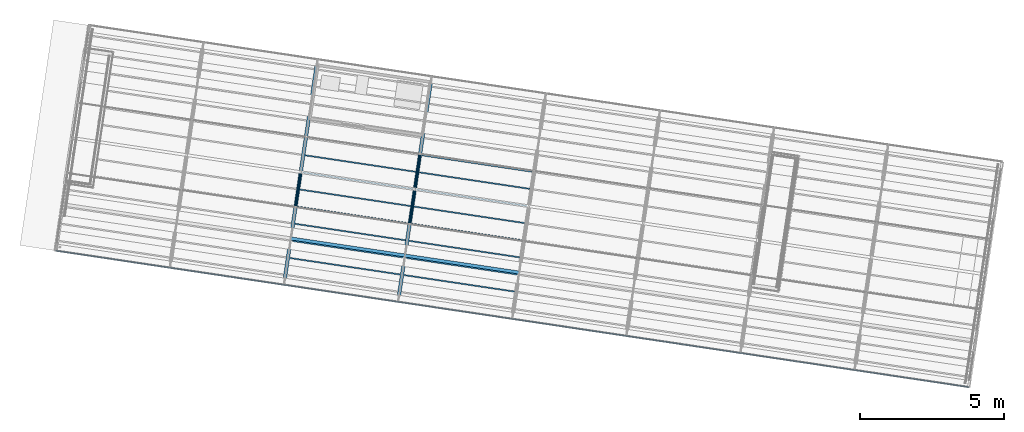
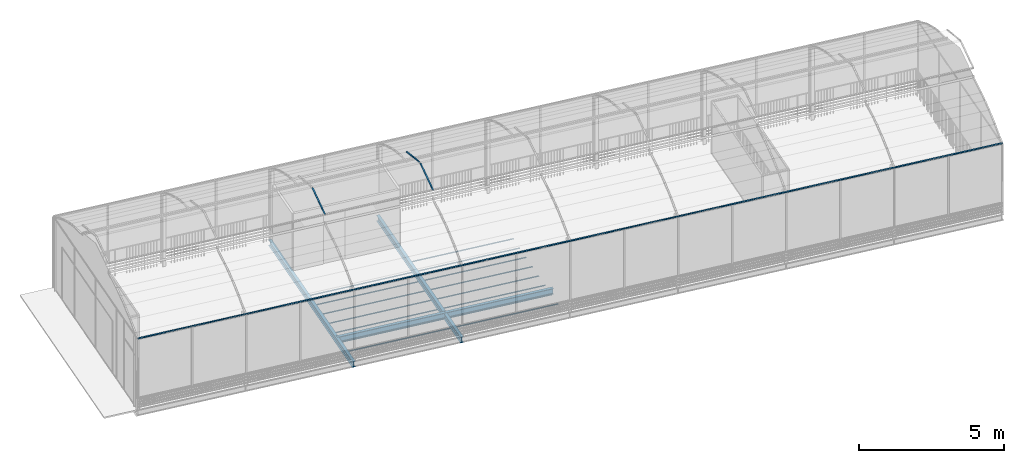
# One storey, part 6 of 34: 19 beams, 4 members, 1 element without a shape of its own.
"""IFC4 building model written with IfcOpenShell, lengths in metres."""

import ifcopenshell
import ifcopenshell.guid

model = None  # the IFC model being written
_history = None  # IfcOwnerHistory: only IFC2X3 demands one
_inside = {}  # id of a spatial element -> (the spatial element, [elements in it])
_under = {}  # id of a project, library or spatial element -> (it, [spatial elements below it])
_declared = {}  # id of a project -> (the project, [libraries it declares])
_typed = {}  # id of a type object -> (the type object, [elements of that type])
_made_of = {}  # id of a material, layer set ... -> (it, [elements and type objects made of it])


def new_model(schema):
    """Start an empty IFC model of exactly this schema.

    Asked for "IFC4X3", IfcOpenShell would pick the latest addendum, in which some entities
    have other attributes; the version numbers below select the first issue.
    IFC2X3 requires an IfcOwnerHistory on every rooted entity: one is made here for all.
    """
    global model, _history
    if schema == "IFC4X3":
        model = ifcopenshell.file(schema_version=(4, 3, 0, 0))
    else:
        model = ifcopenshell.file(schema=schema)
    _inside.clear()
    _under.clear()
    _declared.clear()
    _typed.clear()
    _made_of.clear()
    _history = None
    if model.schema == "IFC2X3":
        org = make("IfcOrganization", Name="unknown")
        user = make(
            "IfcPersonAndOrganization",
            ThePerson=make("IfcPerson", FamilyName="unknown"),
            TheOrganization=org,
        )
        app = make(
            "IfcApplication",
            ApplicationDeveloper=org,
            Version="unknown",
            ApplicationFullName="unknown",
            ApplicationIdentifier="unknown",
        )
        _history = make(
            "IfcOwnerHistory",
            OwningUser=user,
            OwningApplication=app,
            ChangeAction="ADDED",
            CreationDate=0,
        )
    return model


def make(cls, **values):
    """One entity of the class cls with the attributes given. An attribute that is None is left unset."""
    return model.create_entity(
        cls, **{name: value for name, value in values.items() if value is not None}
    )


def rooted(cls, **values):
    """An entity with a GlobalId (a new one), such as an element, a storey or a relation."""
    return make(cls, GlobalId=ifcopenshell.guid.new(), OwnerHistory=_history, **values)


def si_unit(unit_type, name, prefix=None):
    """IfcSIUnit, for example si_unit("LENGTHUNIT", "METRE", prefix="MILLI")."""
    return make("IfcSIUnit", UnitType=unit_type, Prefix=prefix, Name=name)


def assignment(units):
    """IfcUnitAssignment: the units of a project."""
    return None if units is None else make("IfcUnitAssignment", Units=units)


def point(xyz):
    """IfcCartesianPoint."""
    return None if xyz is None else make("IfcCartesianPoint", Coordinates=xyz)


def direction(xyz):
    """IfcDirection."""
    return None if xyz is None else make("IfcDirection", DirectionRatios=xyz)


def frame(location, z_axis=None, x_axis=None):
    """IfcAxis2Placement3D, a coordinate frame: its origin and axes. An axis left out is left unset."""
    return make(
        "IfcAxis2Placement3D",
        Location=point(location),
        Axis=direction(z_axis),
        RefDirection=direction(x_axis),
    )


def origin_with_axes():
    """The frame at (0, 0, 0) with the z axis (0, 0, 1) and the x axis (1, 0, 0) written out."""
    return frame((0.0, 0.0, 0.0), z_axis=(0.0, 0.0, 1.0), x_axis=(1.0, 0.0, 0.0))


def place(relative_to, where):
    """IfcLocalPlacement: puts the frame where relative to a parent placement (None: the world)."""
    return make(
        "IfcLocalPlacement", PlacementRelTo=relative_to, RelativePlacement=where
    )


def context(
    kind, dimensions, precision=None, world=None, true_north=None, identifier=None
):
    """IfcGeometricRepresentationContext, for example the 3D "Model" context."""
    return make(
        "IfcGeometricRepresentationContext",
        ContextIdentifier=identifier,
        ContextType=kind,
        CoordinateSpaceDimension=dimensions,
        Precision=precision,
        WorldCoordinateSystem=world,
        TrueNorth=true_north,
    )


def subcontext(parent, identifier, kind, view, scale=None):
    """IfcGeometricRepresentationSubContext, for example "Body" below "Model"."""
    return make(
        "IfcGeometricRepresentationSubContext",
        ContextIdentifier=identifier,
        ContextType=kind,
        ParentContext=parent,
        TargetScale=scale,
        TargetView=view,
    )


def project(units=None, contexts=None):
    """IfcProject with its units and contexts."""
    return rooted(
        "IfcProject",
        Name="project",
        RepresentationContexts=contexts,
        UnitsInContext=assignment(units),
    )


def spatial(cls, under=None, at=None, **own):
    """A site, building, storey or space (cls), placed at a placement, below another one or the project."""
    s = rooted(cls, ObjectPlacement=at, **own)
    if under is not None:
        _under.setdefault(under.id(), (under, []))[1].append(s)
    return s


def polyline(points):
    """IfcPolyline through the points."""
    return make("IfcPolyline", Points=[point(p) for p in points])


def profile(cls, at=None, kind="AREA", **sizes):
    """A parametric profile (cls). Its sizes go by their IFC names, for example OverallWidth=200.0."""
    return make(cls, ProfileType=kind, Position=at, **sizes)


def rectangle(**sizes):
    """IfcRectangleProfileDef."""
    return profile("IfcRectangleProfileDef", **sizes)


def i_section(**sizes):
    """IfcIShapeProfileDef."""
    return profile("IfcIShapeProfileDef", **sizes)


def outline(outer, holes=None, kind="AREA"):
    """IfcArbitraryClosedProfileDef: a profile drawn as a closed curve; with holes, ...WithVoids."""
    if holes is None:
        return make("IfcArbitraryClosedProfileDef", ProfileType=kind, OuterCurve=outer)
    return make(
        "IfcArbitraryProfileDefWithVoids",
        ProfileType=kind,
        OuterCurve=outer,
        InnerCurves=holes,
    )


def extrude(swept, where, along, depth):
    """IfcExtrudedAreaSolid: the profile swept, set in the frame where, extruded along a direction by depth."""
    return make(
        "IfcExtrudedAreaSolid",
        SweptArea=swept,
        Position=where,
        ExtrudedDirection=direction(along),
        Depth=depth,
    )


def shape(context_of_items, identifier, shape_type, items):
    """IfcShapeRepresentation: the items that make up one representation, for example the "Body"."""
    return make(
        "IfcShapeRepresentation",
        ContextOfItems=context_of_items,
        RepresentationIdentifier=identifier,
        RepresentationType=shape_type,
        Items=items,
    )


def material(Name=None, Category=None):
    """IfcMaterial."""
    return make("IfcMaterial", Name=Name, Category=Category)


def material_profile(
    of_material, cross_section, Name=None, Category=None, Priority=None
):
    """IfcMaterialProfile: a cross section and its material."""
    return make(
        "IfcMaterialProfile",
        Name=Name,
        Material=of_material,
        Profile=cross_section,
        Priority=Priority,
        Category=Category,
    )


def profile_set(profiles, Name=None, composite=None):
    """IfcMaterialProfileSet."""
    return make(
        "IfcMaterialProfileSet",
        Name=Name,
        MaterialProfiles=profiles,
        CompositeProfile=composite,
    )


def profile_usage(for_profile_set, cardinal=None, extent=None):
    """IfcMaterialProfileSetUsage: how a profile set lies along its element."""
    return make(
        "IfcMaterialProfileSetUsage",
        ForProfileSet=for_profile_set,
        CardinalPoint=cardinal,
        ReferenceExtent=extent,
    )


def made_of(thing, what):
    """Note that an element or type object is made of a material, layer set ...; save() writes the relation."""
    if what is not None:
        _made_of.setdefault(what.id(), (what, []))[1].append(thing)
    return thing


def type_object(cls, material=None, **own):
    """A type object (cls), such as IfcWallType, which elements share."""
    return made_of(rooted(cls, **own), material)


def element(
    cls,
    number,
    at=None,
    inside=None,
    cuts=None,
    type_object=None,
    material=None,
    context=None,
    identifier="Body",
    shape_type=None,
    held_by="IfcProductDefinitionShape",
    body=None,
    shapes=None,
    **own,
):
    """One element of the class cls, such as IfcWall. Its Tag is "e" and its number.

    at: its placement. inside: the storey or other place that contains it. cuts: it is an
    opening in that element (IfcRelVoidsElement). A single representation is given by context,
    identifier, shape_type and body (its items); several are given by shapes. held_by: the class
    of the entity that holds the representations. save() writes the other relations.
    """
    e = rooted(cls, Tag="e%d" % number, ObjectPlacement=at, **own)
    if body is not None:
        shapes = [shape(context, identifier, shape_type, body)]
    if shapes is not None:
        e.Representation = make(held_by, Representations=shapes)
    if inside is not None:
        _inside.setdefault(inside.id(), (inside, []))[1].append(e)
    if cuts is not None:
        rooted(
            "IfcRelVoidsElement", RelatingBuildingElement=cuts, RelatedOpeningElement=e
        )
    if type_object is not None:
        _typed.setdefault(type_object.id(), (type_object, []))[1].append(e)
    return made_of(e, material)


def aggregate(whole, parts):
    """IfcRelAggregates: a whole, such as a stair, and the parts it consists of."""
    return rooted("IfcRelAggregates", RelatingObject=whole, RelatedObjects=parts)


def save(model, path):
    """Write the relations noted so far, then the file.

    IfcRelAggregates (storeys below a building ...), IfcRelContainedInSpatialStructure (elements
    in a storey), IfcRelDefinesByType, IfcRelAssociatesMaterial and IfcRelDeclares: one each for
    every whole, place, type object, material and project.
    """
    for whole, parts in _under.values():
        aggregate(whole, parts)
    for where, things in _inside.values():
        rooted(
            "IfcRelContainedInSpatialStructure",
            RelatedElements=things,
            RelatingStructure=where,
        )
    for kind, things in _typed.values():
        rooted("IfcRelDefinesByType", RelatedObjects=things, RelatingType=kind)
    for what, things in _made_of.values():
        rooted("IfcRelAssociatesMaterial", RelatedObjects=things, RelatingMaterial=what)
    for by, libraries in _declared.values():
        rooted("IfcRelDeclares", RelatingContext=by, RelatedDefinitions=libraries)
    model.write(path)


model = new_model("IFC4")

# Units and contexts
model_context = context("Model", 3, precision=1e-05, world=origin_with_axes(), true_north=direction((0.0, 1.0)))
body_context = subcontext(model_context, "Body", "Model", "MODEL_VIEW")
ifc_project = project(units=[si_unit("AREAUNIT", "SQUARE_METRE"), si_unit("VOLUMEUNIT", "CUBIC_METRE"), si_unit("LENGTHUNIT", "METRE")], contexts=[model_context])

# Site, building, storey
site_placement = place(None, origin_with_axes())
site = spatial("IfcSite", under=ifc_project, at=site_placement, Name="Lares · Rua das Mercês · artigo 4771")
building_placement = place(site_placement, frame((15.0, 9.7, 14.65), z_axis=(0.0, 0.0, 1.0), x_axis=(0.989015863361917, -0.147809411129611, 0.0)))
building = spatial("IfcBuilding", under=site, at=building_placement, Name="Casa Sobreposta")
storey_placement = place(building_placement, frame((0.0, 0.0, 3.24), z_axis=(0.0, 0.0, 1.0), x_axis=(1.0, 0.0, 0.0)))
storey = spatial("IfcBuildingStorey", under=building, at=storey_placement, Name="01 · Jardim de inverno", Elevation=17.89)

# Beams
ifc_material_1 = material(Name="Aço pintado / Stahl lackiert", Category="steel")
ifc_material_profile_1 = material_profile(ifc_material_1, i_section(OverallWidth=0.12, OverallDepth=0.24, WebThickness=0.0062, FlangeThickness=0.0098))
ifc_profile_set_1 = profile_set([ifc_material_profile_1], Name="IPE240")
ifc_profile_usage_1 = profile_usage(ifc_profile_set_1)
beam_type = type_object("IfcBeamType", Name="IPE240 / steel", PredefinedType="NOTDEFINED", material=ifc_profile_set_1)
beam_1_placement = place(storey_placement, frame((8.0, 0.12, -0.152), z_axis=(1.0, 0.0, 0.0), x_axis=(0.0, -1.0, 0.0)))
element("IfcBeam", 1, at=beam_1_placement, inside=storey, type_object=beam_type, material=ifc_profile_usage_1, Name="Viga longitudinal 8 / 0.12", context=body_context, shape_type="SweptSolid", body=[
    extrude(i_section(OverallWidth=0.12, OverallDepth=0.24, WebThickness=0.0062, FlangeThickness=0.0098), origin_with_axes(), (0.0, 0.0, 1.0), 4.0),
])
ifc_profile_usage_2 = profile_usage(ifc_profile_set_1)
beam_2_placement = place(storey_placement, frame((12.0, 0.12, -0.152), z_axis=(1.0, 0.0, 0.0), x_axis=(0.0, -1.0, 0.0)))
element("IfcBeam", 2, at=beam_2_placement, inside=storey, type_object=beam_type, material=ifc_profile_usage_2, Name="Viga longitudinal 12 / 0.12", context=body_context, shape_type="SweptSolid", body=[
    extrude(i_section(OverallWidth=0.12, OverallDepth=0.24, WebThickness=0.0062, FlangeThickness=0.0098), origin_with_axes(), (0.0, 0.0, 1.0), 4.0),
])
ifc_profile_usage_3 = profile_usage(ifc_profile_set_1)
beam_3_placement = place(storey_placement, frame((8.0, -1.5, -0.152), z_axis=(0.0, 1.0, 0.0), x_axis=(1.0, 0.0, 0.0)))
element("IfcBeam", 3, at=beam_3_placement, inside=storey, type_object=beam_type, material=ifc_profile_usage_3, Name="Viga transversal eixo 8", context=body_context, shape_type="SweptSolid", body=[
    extrude(i_section(OverallWidth=0.12, OverallDepth=0.24, WebThickness=0.0062, FlangeThickness=0.0098), origin_with_axes(), (0.0, 0.0, 1.0), 7.9),
])
ifc_profile_usage_4 = profile_usage(ifc_profile_set_1)
beam_4_placement = place(storey_placement, frame((12.0, -1.5, -0.152), z_axis=(0.0, 1.0, 0.0), x_axis=(1.0, 0.0, 0.0)))
element("IfcBeam", 4, at=beam_4_placement, inside=storey, type_object=beam_type, material=ifc_profile_usage_4, Name="Viga transversal eixo 12", context=body_context, shape_type="SweptSolid", body=[
    extrude(i_section(OverallWidth=0.12, OverallDepth=0.24, WebThickness=0.0062, FlangeThickness=0.0098), origin_with_axes(), (0.0, 0.0, 1.0), 7.9),
])

# Roof, members
ifc_material_2 = material(Name="Vidro / Normalglas", Category="glass")
roof_placement = place(storey_placement, frame((0.0, 0.0, -3.24), z_axis=(0.0, 0.0, 1.0), x_axis=(1.0, 0.0, 0.0)))
roof = element("IfcRoof", 5, at=roof_placement, inside=storey, material=ifc_material_2, Name="Cobertura translúcida da estufa", PredefinedType="BARREL_ROOF")
ifc_material_profile_2 = material_profile(ifc_material_1, rectangle(XDim=0.035, YDim=0.035))
ifc_profile_set_2 = profile_set([ifc_material_profile_2], Name="R0.035")
ifc_profile_usage_5 = profile_usage(ifc_profile_set_2)
member_type = type_object("IfcMemberType", Name="R0.035 / steel", PredefinedType="NOTDEFINED", material=ifc_profile_set_2)
member_1_placement = place(roof_placement, frame((8.0, 1.22042020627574, 7.62067689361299), z_axis=(0.0, 0.960073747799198, 0.279747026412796), x_axis=(1.0, 0.0, 0.0)))
member_1 = element("IfcMember", 6, at=member_1_placement, type_object=member_type, material=ifc_profile_usage_5, Name="Arco estufa 8/7", context=body_context, shape_type="SweptSolid", body=[
    extrude(rectangle(XDim=0.035, YDim=0.035), origin_with_axes(), (0.0, 0.0, 1.0), 1.23148937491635),
])
ifc_profile_usage_6 = profile_usage(ifc_profile_set_2)
member_2_placement = place(roof_placement, frame((12.0, 1.22042020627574, 7.62067689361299), z_axis=(0.0, 0.960073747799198, 0.279747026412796), x_axis=(1.0, 0.0, 0.0)))
member_2 = element("IfcMember", 7, at=member_2_placement, type_object=member_type, material=ifc_profile_usage_6, Name="Arco estufa 12/7", context=body_context, shape_type="SweptSolid", body=[
    extrude(rectangle(XDim=0.035, YDim=0.035), origin_with_axes(), (0.0, 0.0, 1.0), 1.23148937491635),
])
ifc_profile_usage_7 = profile_usage(ifc_profile_set_2)
member_3_placement = place(roof_placement, frame((12.0, 2.49770027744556, 7.96518238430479), z_axis=(0.0, 0.96007374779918, -0.279747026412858), x_axis=(1.0, 0.0, 0.0)))
member_3 = element("IfcMember", 8, at=member_3_placement, type_object=member_type, material=ifc_profile_usage_7, Name="Arco estufa 12/9", context=body_context, shape_type="SweptSolid", body=[
    extrude(rectangle(XDim=0.035, YDim=0.035), origin_with_axes(), (0.0, 0.0, 1.0), 1.23148937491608),
])
ifc_profile_usage_8 = profile_usage(ifc_profile_set_2)
member_4_placement = place(roof_placement, frame((0.0, -1.5, 6.23430000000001), z_axis=(1.0, 0.0, 0.0), x_axis=(0.0, -1.0, 0.0)))
member_4 = element("IfcMember", 9, at=member_4_placement, type_object=member_type, material=ifc_profile_usage_8, Name="Terça da estufa", context=body_context, shape_type="SweptSolid", body=[
    extrude(rectangle(XDim=0.035, YDim=0.035), origin_with_axes(), (0.0, 0.0, 1.0), 32.0),
])
aggregate(roof, [member_1, member_2, member_3, member_4])

# Beams
ifc_material_3 = material(Name="Madeira / Bauholz", Category="wood")
ifc_material_profile_3 = material_profile(ifc_material_3, outline(polyline([(0.022225, -0.12), (0.022225, -0.092), (-0.022225, -0.092), (-0.022225, -0.12), (0.022225, -0.12)])))
ifc_material_4 = material(Name="OSB", Category="wood")
ifc_material_profile_4 = material_profile(ifc_material_4, outline(polyline([(0.0047625, -0.092), (0.0047625, 0.092), (-0.0047625, 0.092), (-0.0047625, -0.092), (0.0047625, -0.092)])))
ifc_material_profile_5 = material_profile(ifc_material_3, outline(polyline([(0.022225, 0.092), (0.022225, 0.12), (-0.022225, 0.12), (-0.022225, 0.092), (0.022225, 0.092)])))
ifc_profile_set_3 = profile_set([ifc_material_profile_3, ifc_material_profile_4, ifc_material_profile_5], Name="TJI240 · madeira / OSB")
ifc_profile_usage_9 = profile_usage(ifc_profile_set_3)
beam_5_placement = place(storey_placement, frame((8.065, -0.55, -0.152), z_axis=(1.0, 0.0, 0.0), x_axis=(0.0, 1.0, 0.0)))
element("IfcBeam", 10, at=beam_5_placement, inside=storey, material=ifc_profile_usage_9, Name="TJI240 · 8.065 / -0.55", context=body_context, shape_type="SweptSolid", body=[
    extrude(outline(polyline([(0.022225, -0.12), (0.022225, -0.092), (-0.022225, -0.092), (-0.022225, -0.12), (0.022225, -0.12)])), origin_with_axes(), (0.0, 0.0, 1.0), 3.87),
    extrude(outline(polyline([(0.022225, -0.12), (0.022225, -0.092), (-0.022225, -0.092), (-0.022225, -0.12), (0.022225, -0.12)])), origin_with_axes(), (0.0, 0.0, 1.0), 3.87),
    extrude(outline(polyline([(0.022225, -0.12), (0.022225, -0.092), (-0.022225, -0.092), (-0.022225, -0.12), (0.022225, -0.12)])), origin_with_axes(), (0.0, 0.0, 1.0), 3.87),
])
ifc_material_profile_6 = material_profile(ifc_material_3, outline(polyline([(0.022225, -0.12), (0.022225, -0.092), (-0.022225, -0.092), (-0.022225, -0.12), (0.022225, -0.12)])))
ifc_material_profile_7 = material_profile(ifc_material_4, outline(polyline([(0.0047625, -0.092), (0.0047625, 0.092), (-0.0047625, 0.092), (-0.0047625, -0.092), (0.0047625, -0.092)])))
ifc_material_profile_8 = material_profile(ifc_material_3, outline(polyline([(0.022225, 0.092), (0.022225, 0.12), (-0.022225, 0.12), (-0.022225, 0.092), (0.022225, 0.092)])))
ifc_profile_set_4 = profile_set([ifc_material_profile_6, ifc_material_profile_7, ifc_material_profile_8], Name="TJI240 · madeira / OSB")
ifc_profile_usage_10 = profile_usage(ifc_profile_set_4)
beam_6_placement = place(storey_placement, frame((12.065, -0.55, -0.152), z_axis=(1.0, 0.0, 0.0), x_axis=(0.0, 1.0, 0.0)))
element("IfcBeam", 11, at=beam_6_placement, inside=storey, material=ifc_profile_usage_10, Name="TJI240 · 12.065 / -0.55", context=body_context, shape_type="SweptSolid", body=[
    extrude(outline(polyline([(0.022225, -0.12), (0.022225, -0.092), (-0.022225, -0.092), (-0.022225, -0.12), (0.022225, -0.12)])), origin_with_axes(), (0.0, 0.0, 1.0), 3.87),
    extrude(outline(polyline([(0.022225, -0.12), (0.022225, -0.092), (-0.022225, -0.092), (-0.022225, -0.12), (0.022225, -0.12)])), origin_with_axes(), (0.0, 0.0, 1.0), 3.87),
    extrude(outline(polyline([(0.022225, -0.12), (0.022225, -0.092), (-0.022225, -0.092), (-0.022225, -0.12), (0.022225, -0.12)])), origin_with_axes(), (0.0, 0.0, 1.0), 3.87),
])
ifc_material_profile_9 = material_profile(ifc_material_3, outline(polyline([(0.022225, -0.12), (0.022225, -0.092), (-0.022225, -0.092), (-0.022225, -0.12), (0.022225, -0.12)])))
ifc_material_profile_10 = material_profile(ifc_material_4, outline(polyline([(0.0047625, -0.092), (0.0047625, 0.092), (-0.0047625, 0.092), (-0.0047625, -0.092), (0.0047625, -0.092)])))
ifc_material_profile_11 = material_profile(ifc_material_3, outline(polyline([(0.022225, 0.092), (0.022225, 0.12), (-0.022225, 0.12), (-0.022225, 0.092), (0.022225, 0.092)])))
ifc_profile_set_5 = profile_set([ifc_material_profile_9, ifc_material_profile_10, ifc_material_profile_11], Name="TJI240 · madeira / OSB")
ifc_profile_usage_11 = profile_usage(ifc_profile_set_5)
beam_7_placement = place(storey_placement, frame((8.065, 0.05, -0.152), z_axis=(1.0, 0.0, 0.0), x_axis=(0.0, 1.0, 0.0)))
element("IfcBeam", 12, at=beam_7_placement, inside=storey, material=ifc_profile_usage_11, Name="TJI240 · 8.065 / 0.05", context=body_context, shape_type="SweptSolid", body=[
    extrude(outline(polyline([(0.022225, -0.12), (0.022225, -0.092), (-0.022225, -0.092), (-0.022225, -0.12), (0.022225, -0.12)])), origin_with_axes(), (0.0, 0.0, 1.0), 3.87),
    extrude(outline(polyline([(0.022225, -0.12), (0.022225, -0.092), (-0.022225, -0.092), (-0.022225, -0.12), (0.022225, -0.12)])), origin_with_axes(), (0.0, 0.0, 1.0), 3.87),
    extrude(outline(polyline([(0.022225, -0.12), (0.022225, -0.092), (-0.022225, -0.092), (-0.022225, -0.12), (0.022225, -0.12)])), origin_with_axes(), (0.0, 0.0, 1.0), 3.87),
])
ifc_material_profile_12 = material_profile(ifc_material_3, outline(polyline([(0.022225, -0.12), (0.022225, -0.092), (-0.022225, -0.092), (-0.022225, -0.12), (0.022225, -0.12)])))
ifc_material_profile_13 = material_profile(ifc_material_4, outline(polyline([(0.0047625, -0.092), (0.0047625, 0.092), (-0.0047625, 0.092), (-0.0047625, -0.092), (0.0047625, -0.092)])))
ifc_material_profile_14 = material_profile(ifc_material_3, outline(polyline([(0.022225, 0.092), (0.022225, 0.12), (-0.022225, 0.12), (-0.022225, 0.092), (0.022225, 0.092)])))
ifc_profile_set_6 = profile_set([ifc_material_profile_12, ifc_material_profile_13, ifc_material_profile_14], Name="TJI240 · madeira / OSB")
ifc_profile_usage_12 = profile_usage(ifc_profile_set_6)
beam_8_placement = place(storey_placement, frame((12.065, 0.05, -0.152), z_axis=(1.0, 0.0, 0.0), x_axis=(0.0, 1.0, 0.0)))
element("IfcBeam", 13, at=beam_8_placement, inside=storey, material=ifc_profile_usage_12, Name="TJI240 · 12.065 / 0.05", context=body_context, shape_type="SweptSolid", body=[
    extrude(outline(polyline([(0.022225, -0.12), (0.022225, -0.092), (-0.022225, -0.092), (-0.022225, -0.12), (0.022225, -0.12)])), origin_with_axes(), (0.0, 0.0, 1.0), 3.87),
    extrude(outline(polyline([(0.022225, -0.12), (0.022225, -0.092), (-0.022225, -0.092), (-0.022225, -0.12), (0.022225, -0.12)])), origin_with_axes(), (0.0, 0.0, 1.0), 3.87),
    extrude(outline(polyline([(0.022225, -0.12), (0.022225, -0.092), (-0.022225, -0.092), (-0.022225, -0.12), (0.022225, -0.12)])), origin_with_axes(), (0.0, 0.0, 1.0), 3.87),
])
ifc_material_profile_15 = material_profile(ifc_material_3, outline(polyline([(0.022225, -0.12), (0.022225, -0.092), (-0.022225, -0.092), (-0.022225, -0.12), (0.022225, -0.12)])))
ifc_material_profile_16 = material_profile(ifc_material_4, outline(polyline([(0.0047625, -0.092), (0.0047625, 0.092), (-0.0047625, 0.092), (-0.0047625, -0.092), (0.0047625, -0.092)])))
ifc_material_profile_17 = material_profile(ifc_material_3, outline(polyline([(0.022225, 0.092), (0.022225, 0.12), (-0.022225, 0.12), (-0.022225, 0.092), (0.022225, 0.092)])))
ifc_profile_set_7 = profile_set([ifc_material_profile_15, ifc_material_profile_16, ifc_material_profile_17], Name="TJI240 · madeira / OSB")
ifc_profile_usage_13 = profile_usage(ifc_profile_set_7)
beam_9_placement = place(storey_placement, frame((8.065, 0.65, -0.152), z_axis=(1.0, 0.0, 0.0), x_axis=(0.0, 1.0, 0.0)))
element("IfcBeam", 14, at=beam_9_placement, inside=storey, material=ifc_profile_usage_13, Name="TJI240 · 8.065 / 0.65", context=body_context, shape_type="SweptSolid", body=[
    extrude(outline(polyline([(0.022225, -0.12), (0.022225, -0.092), (-0.022225, -0.092), (-0.022225, -0.12), (0.022225, -0.12)])), origin_with_axes(), (0.0, 0.0, 1.0), 3.87),
    extrude(outline(polyline([(0.022225, -0.12), (0.022225, -0.092), (-0.022225, -0.092), (-0.022225, -0.12), (0.022225, -0.12)])), origin_with_axes(), (0.0, 0.0, 1.0), 3.87),
    extrude(outline(polyline([(0.022225, -0.12), (0.022225, -0.092), (-0.022225, -0.092), (-0.022225, -0.12), (0.022225, -0.12)])), origin_with_axes(), (0.0, 0.0, 1.0), 3.87),
])
ifc_material_profile_18 = material_profile(ifc_material_3, outline(polyline([(0.022225, -0.12), (0.022225, -0.092), (-0.022225, -0.092), (-0.022225, -0.12), (0.022225, -0.12)])))
ifc_material_profile_19 = material_profile(ifc_material_4, outline(polyline([(0.0047625, -0.092), (0.0047625, 0.092), (-0.0047625, 0.092), (-0.0047625, -0.092), (0.0047625, -0.092)])))
ifc_material_profile_20 = material_profile(ifc_material_3, outline(polyline([(0.022225, 0.092), (0.022225, 0.12), (-0.022225, 0.12), (-0.022225, 0.092), (0.022225, 0.092)])))
ifc_profile_set_8 = profile_set([ifc_material_profile_18, ifc_material_profile_19, ifc_material_profile_20], Name="TJI240 · madeira / OSB")
ifc_profile_usage_14 = profile_usage(ifc_profile_set_8)
beam_10_placement = place(storey_placement, frame((12.065, 0.65, -0.152), z_axis=(1.0, 0.0, 0.0), x_axis=(0.0, 1.0, 0.0)))
element("IfcBeam", 15, at=beam_10_placement, inside=storey, material=ifc_profile_usage_14, Name="TJI240 · 12.065 / 0.65", context=body_context, shape_type="SweptSolid", body=[
    extrude(outline(polyline([(0.022225, -0.12), (0.022225, -0.092), (-0.022225, -0.092), (-0.022225, -0.12), (0.022225, -0.12)])), origin_with_axes(), (0.0, 0.0, 1.0), 3.87),
    extrude(outline(polyline([(0.022225, -0.12), (0.022225, -0.092), (-0.022225, -0.092), (-0.022225, -0.12), (0.022225, -0.12)])), origin_with_axes(), (0.0, 0.0, 1.0), 3.87),
    extrude(outline(polyline([(0.022225, -0.12), (0.022225, -0.092), (-0.022225, -0.092), (-0.022225, -0.12), (0.022225, -0.12)])), origin_with_axes(), (0.0, 0.0, 1.0), 3.87),
])
ifc_material_profile_21 = material_profile(ifc_material_3, outline(polyline([(0.022225, -0.12), (0.022225, -0.092), (-0.022225, -0.092), (-0.022225, -0.12), (0.022225, -0.12)])))
ifc_material_profile_22 = material_profile(ifc_material_4, outline(polyline([(0.0047625, -0.092), (0.0047625, 0.092), (-0.0047625, 0.092), (-0.0047625, -0.092), (0.0047625, -0.092)])))
ifc_material_profile_23 = material_profile(ifc_material_3, outline(polyline([(0.022225, 0.092), (0.022225, 0.12), (-0.022225, 0.12), (-0.022225, 0.092), (0.022225, 0.092)])))
ifc_profile_set_9 = profile_set([ifc_material_profile_21, ifc_material_profile_22, ifc_material_profile_23], Name="TJI240 · madeira / OSB")
ifc_profile_usage_15 = profile_usage(ifc_profile_set_9)
beam_11_placement = place(storey_placement, frame((8.065, 1.25, -0.152), z_axis=(1.0, 0.0, 0.0), x_axis=(0.0, 1.0, 0.0)))
element("IfcBeam", 16, at=beam_11_placement, inside=storey, material=ifc_profile_usage_15, Name="TJI240 · 8.065 / 1.25", context=body_context, shape_type="SweptSolid", body=[
    extrude(outline(polyline([(0.022225, -0.12), (0.022225, -0.092), (-0.022225, -0.092), (-0.022225, -0.12), (0.022225, -0.12)])), origin_with_axes(), (0.0, 0.0, 1.0), 3.87),
    extrude(outline(polyline([(0.022225, -0.12), (0.022225, -0.092), (-0.022225, -0.092), (-0.022225, -0.12), (0.022225, -0.12)])), origin_with_axes(), (0.0, 0.0, 1.0), 3.87),
    extrude(outline(polyline([(0.022225, -0.12), (0.022225, -0.092), (-0.022225, -0.092), (-0.022225, -0.12), (0.022225, -0.12)])), origin_with_axes(), (0.0, 0.0, 1.0), 3.87),
])
ifc_material_profile_24 = material_profile(ifc_material_3, outline(polyline([(0.022225, -0.12), (0.022225, -0.092), (-0.022225, -0.092), (-0.022225, -0.12), (0.022225, -0.12)])))
ifc_material_profile_25 = material_profile(ifc_material_4, outline(polyline([(0.0047625, -0.092), (0.0047625, 0.092), (-0.0047625, 0.092), (-0.0047625, -0.092), (0.0047625, -0.092)])))
ifc_material_profile_26 = material_profile(ifc_material_3, outline(polyline([(0.022225, 0.092), (0.022225, 0.12), (-0.022225, 0.12), (-0.022225, 0.092), (0.022225, 0.092)])))
ifc_profile_set_10 = profile_set([ifc_material_profile_24, ifc_material_profile_25, ifc_material_profile_26], Name="TJI240 · madeira / OSB")
ifc_profile_usage_16 = profile_usage(ifc_profile_set_10)
beam_12_placement = place(storey_placement, frame((12.065, 1.25, -0.152), z_axis=(1.0, 0.0, 0.0), x_axis=(0.0, 1.0, 0.0)))
element("IfcBeam", 17, at=beam_12_placement, inside=storey, material=ifc_profile_usage_16, Name="TJI240 · 12.065 / 1.25", context=body_context, shape_type="SweptSolid", body=[
    extrude(outline(polyline([(0.022225, -0.12), (0.022225, -0.092), (-0.022225, -0.092), (-0.022225, -0.12), (0.022225, -0.12)])), origin_with_axes(), (0.0, 0.0, 1.0), 3.87),
    extrude(outline(polyline([(0.022225, -0.12), (0.022225, -0.092), (-0.022225, -0.092), (-0.022225, -0.12), (0.022225, -0.12)])), origin_with_axes(), (0.0, 0.0, 1.0), 3.87),
    extrude(outline(polyline([(0.022225, -0.12), (0.022225, -0.092), (-0.022225, -0.092), (-0.022225, -0.12), (0.022225, -0.12)])), origin_with_axes(), (0.0, 0.0, 1.0), 3.87),
])
ifc_material_profile_27 = material_profile(ifc_material_3, outline(polyline([(0.022225, -0.12), (0.022225, -0.092), (-0.022225, -0.092), (-0.022225, -0.12), (0.022225, -0.12)])))
ifc_material_profile_28 = material_profile(ifc_material_4, outline(polyline([(0.0047625, -0.092), (0.0047625, 0.092), (-0.0047625, 0.092), (-0.0047625, -0.092), (0.0047625, -0.092)])))
ifc_material_profile_29 = material_profile(ifc_material_3, outline(polyline([(0.022225, 0.092), (0.022225, 0.12), (-0.022225, 0.12), (-0.022225, 0.092), (0.022225, 0.092)])))
ifc_profile_set_11 = profile_set([ifc_material_profile_27, ifc_material_profile_28, ifc_material_profile_29], Name="TJI240 · madeira / OSB")
ifc_profile_usage_17 = profile_usage(ifc_profile_set_11)
beam_13_placement = place(storey_placement, frame((8.065, 1.85, -0.152), z_axis=(1.0, 0.0, 0.0), x_axis=(0.0, 1.0, 0.0)))
element("IfcBeam", 18, at=beam_13_placement, inside=storey, material=ifc_profile_usage_17, Name="TJI240 · 8.065 / 1.85", context=body_context, shape_type="SweptSolid", body=[
    extrude(outline(polyline([(0.022225, -0.12), (0.022225, -0.092), (-0.022225, -0.092), (-0.022225, -0.12), (0.022225, -0.12)])), origin_with_axes(), (0.0, 0.0, 1.0), 3.87),
    extrude(outline(polyline([(0.022225, -0.12), (0.022225, -0.092), (-0.022225, -0.092), (-0.022225, -0.12), (0.022225, -0.12)])), origin_with_axes(), (0.0, 0.0, 1.0), 3.87),
    extrude(outline(polyline([(0.022225, -0.12), (0.022225, -0.092), (-0.022225, -0.092), (-0.022225, -0.12), (0.022225, -0.12)])), origin_with_axes(), (0.0, 0.0, 1.0), 3.87),
])
ifc_material_profile_30 = material_profile(ifc_material_3, outline(polyline([(0.022225, -0.12), (0.022225, -0.092), (-0.022225, -0.092), (-0.022225, -0.12), (0.022225, -0.12)])))
ifc_material_profile_31 = material_profile(ifc_material_4, outline(polyline([(0.0047625, -0.092), (0.0047625, 0.092), (-0.0047625, 0.092), (-0.0047625, -0.092), (0.0047625, -0.092)])))
ifc_material_profile_32 = material_profile(ifc_material_3, outline(polyline([(0.022225, 0.092), (0.022225, 0.12), (-0.022225, 0.12), (-0.022225, 0.092), (0.022225, 0.092)])))
ifc_profile_set_12 = profile_set([ifc_material_profile_30, ifc_material_profile_31, ifc_material_profile_32], Name="TJI240 · madeira / OSB")
ifc_profile_usage_18 = profile_usage(ifc_profile_set_12)
beam_14_placement = place(storey_placement, frame((12.065, 1.85, -0.152), z_axis=(1.0, 0.0, 0.0), x_axis=(0.0, 1.0, 0.0)))
element("IfcBeam", 19, at=beam_14_placement, inside=storey, material=ifc_profile_usage_18, Name="TJI240 · 12.065 / 1.85", context=body_context, shape_type="SweptSolid", body=[
    extrude(outline(polyline([(0.022225, -0.12), (0.022225, -0.092), (-0.022225, -0.092), (-0.022225, -0.12), (0.022225, -0.12)])), origin_with_axes(), (0.0, 0.0, 1.0), 3.87),
    extrude(outline(polyline([(0.022225, -0.12), (0.022225, -0.092), (-0.022225, -0.092), (-0.022225, -0.12), (0.022225, -0.12)])), origin_with_axes(), (0.0, 0.0, 1.0), 3.87),
    extrude(outline(polyline([(0.022225, -0.12), (0.022225, -0.092), (-0.022225, -0.092), (-0.022225, -0.12), (0.022225, -0.12)])), origin_with_axes(), (0.0, 0.0, 1.0), 3.87),
])
ifc_material_profile_33 = material_profile(ifc_material_3, outline(polyline([(0.022225, -0.12), (0.022225, -0.092), (-0.022225, -0.092), (-0.022225, -0.12), (0.022225, -0.12)])))
ifc_material_profile_34 = material_profile(ifc_material_4, outline(polyline([(0.0047625, -0.092), (0.0047625, 0.092), (-0.0047625, 0.092), (-0.0047625, -0.092), (0.0047625, -0.092)])))
ifc_material_profile_35 = material_profile(ifc_material_3, outline(polyline([(0.022225, 0.092), (0.022225, 0.12), (-0.022225, 0.12), (-0.022225, 0.092), (0.022225, 0.092)])))
ifc_profile_set_13 = profile_set([ifc_material_profile_33, ifc_material_profile_34, ifc_material_profile_35], Name="TJI240 · madeira / OSB")
ifc_profile_usage_19 = profile_usage(ifc_profile_set_13)
beam_15_placement = place(storey_placement, frame((8.065, 2.45, -0.152), z_axis=(1.0, 0.0, 0.0), x_axis=(0.0, 1.0, 0.0)))
element("IfcBeam", 20, at=beam_15_placement, inside=storey, material=ifc_profile_usage_19, Name="TJI240 · 8.065 / 2.45", context=body_context, shape_type="SweptSolid", body=[
    extrude(outline(polyline([(0.022225, -0.12), (0.022225, -0.092), (-0.022225, -0.092), (-0.022225, -0.12), (0.022225, -0.12)])), origin_with_axes(), (0.0, 0.0, 1.0), 3.87),
    extrude(outline(polyline([(0.022225, -0.12), (0.022225, -0.092), (-0.022225, -0.092), (-0.022225, -0.12), (0.022225, -0.12)])), origin_with_axes(), (0.0, 0.0, 1.0), 3.87),
    extrude(outline(polyline([(0.022225, -0.12), (0.022225, -0.092), (-0.022225, -0.092), (-0.022225, -0.12), (0.022225, -0.12)])), origin_with_axes(), (0.0, 0.0, 1.0), 3.87),
])
ifc_material_profile_36 = material_profile(ifc_material_3, outline(polyline([(0.022225, -0.12), (0.022225, -0.092), (-0.022225, -0.092), (-0.022225, -0.12), (0.022225, -0.12)])))
ifc_material_profile_37 = material_profile(ifc_material_4, outline(polyline([(0.0047625, -0.092), (0.0047625, 0.092), (-0.0047625, 0.092), (-0.0047625, -0.092), (0.0047625, -0.092)])))
ifc_material_profile_38 = material_profile(ifc_material_3, outline(polyline([(0.022225, 0.092), (0.022225, 0.12), (-0.022225, 0.12), (-0.022225, 0.092), (0.022225, 0.092)])))
ifc_profile_set_14 = profile_set([ifc_material_profile_36, ifc_material_profile_37, ifc_material_profile_38], Name="TJI240 · madeira / OSB")
ifc_profile_usage_20 = profile_usage(ifc_profile_set_14)
beam_16_placement = place(storey_placement, frame((12.065, 2.45, -0.152), z_axis=(1.0, 0.0, 0.0), x_axis=(0.0, 1.0, 0.0)))
element("IfcBeam", 21, at=beam_16_placement, inside=storey, material=ifc_profile_usage_20, Name="TJI240 · 12.065 / 2.45", context=body_context, shape_type="SweptSolid", body=[
    extrude(outline(polyline([(0.022225, -0.12), (0.022225, -0.092), (-0.022225, -0.092), (-0.022225, -0.12), (0.022225, -0.12)])), origin_with_axes(), (0.0, 0.0, 1.0), 3.87),
    extrude(outline(polyline([(0.022225, -0.12), (0.022225, -0.092), (-0.022225, -0.092), (-0.022225, -0.12), (0.022225, -0.12)])), origin_with_axes(), (0.0, 0.0, 1.0), 3.87),
    extrude(outline(polyline([(0.022225, -0.12), (0.022225, -0.092), (-0.022225, -0.092), (-0.022225, -0.12), (0.022225, -0.12)])), origin_with_axes(), (0.0, 0.0, 1.0), 3.87),
])
ifc_material_profile_39 = material_profile(ifc_material_3, outline(polyline([(0.022225, -0.12), (0.022225, -0.092), (-0.022225, -0.092), (-0.022225, -0.12), (0.022225, -0.12)])))
ifc_material_profile_40 = material_profile(ifc_material_4, outline(polyline([(0.0047625, -0.092), (0.0047625, 0.092), (-0.0047625, 0.092), (-0.0047625, -0.092), (0.0047625, -0.092)])))
ifc_material_profile_41 = material_profile(ifc_material_3, outline(polyline([(0.022225, 0.092), (0.022225, 0.12), (-0.022225, 0.12), (-0.022225, 0.092), (0.022225, 0.092)])))
ifc_profile_set_15 = profile_set([ifc_material_profile_39, ifc_material_profile_40, ifc_material_profile_41], Name="TJI240 · madeira / OSB")
ifc_profile_usage_21 = profile_usage(ifc_profile_set_15)
beam_17_placement = place(storey_placement, frame((8.065, 3.05, -0.152), z_axis=(1.0, 0.0, 0.0), x_axis=(0.0, 1.0, 0.0)))
element("IfcBeam", 22, at=beam_17_placement, inside=storey, material=ifc_profile_usage_21, Name="TJI240 · 8.065 / 3.05", context=body_context, shape_type="SweptSolid", body=[
    extrude(outline(polyline([(0.022225, -0.12), (0.022225, -0.092), (-0.022225, -0.092), (-0.022225, -0.12), (0.022225, -0.12)])), origin_with_axes(), (0.0, 0.0, 1.0), 3.87),
    extrude(outline(polyline([(0.022225, -0.12), (0.022225, -0.092), (-0.022225, -0.092), (-0.022225, -0.12), (0.022225, -0.12)])), origin_with_axes(), (0.0, 0.0, 1.0), 3.87),
    extrude(outline(polyline([(0.022225, -0.12), (0.022225, -0.092), (-0.022225, -0.092), (-0.022225, -0.12), (0.022225, -0.12)])), origin_with_axes(), (0.0, 0.0, 1.0), 3.87),
])
ifc_material_profile_42 = material_profile(ifc_material_3, outline(polyline([(0.022225, -0.12), (0.022225, -0.092), (-0.022225, -0.092), (-0.022225, -0.12), (0.022225, -0.12)])))
ifc_material_profile_43 = material_profile(ifc_material_4, outline(polyline([(0.0047625, -0.092), (0.0047625, 0.092), (-0.0047625, 0.092), (-0.0047625, -0.092), (0.0047625, -0.092)])))
ifc_material_profile_44 = material_profile(ifc_material_3, outline(polyline([(0.022225, 0.092), (0.022225, 0.12), (-0.022225, 0.12), (-0.022225, 0.092), (0.022225, 0.092)])))
ifc_profile_set_16 = profile_set([ifc_material_profile_42, ifc_material_profile_43, ifc_material_profile_44], Name="TJI240 · madeira / OSB")
ifc_profile_usage_22 = profile_usage(ifc_profile_set_16)
beam_18_placement = place(storey_placement, frame((12.065, 3.05, -0.152), z_axis=(1.0, 0.0, 0.0), x_axis=(0.0, 1.0, 0.0)))
element("IfcBeam", 23, at=beam_18_placement, inside=storey, material=ifc_profile_usage_22, Name="TJI240 · 12.065 / 3.05", context=body_context, shape_type="SweptSolid", body=[
    extrude(outline(polyline([(0.022225, -0.12), (0.022225, -0.092), (-0.022225, -0.092), (-0.022225, -0.12), (0.022225, -0.12)])), origin_with_axes(), (0.0, 0.0, 1.0), 3.87),
    extrude(outline(polyline([(0.022225, -0.12), (0.022225, -0.092), (-0.022225, -0.092), (-0.022225, -0.12), (0.022225, -0.12)])), origin_with_axes(), (0.0, 0.0, 1.0), 3.87),
    extrude(outline(polyline([(0.022225, -0.12), (0.022225, -0.092), (-0.022225, -0.092), (-0.022225, -0.12), (0.022225, -0.12)])), origin_with_axes(), (0.0, 0.0, 1.0), 3.87),
])
ifc_material_profile_45 = material_profile(ifc_material_3, outline(polyline([(0.022225, -0.12), (0.022225, -0.092), (-0.022225, -0.092), (-0.022225, -0.12), (0.022225, -0.12)])))
ifc_material_profile_46 = material_profile(ifc_material_4, outline(polyline([(0.0047625, -0.092), (0.0047625, 0.092), (-0.0047625, 0.092), (-0.0047625, -0.092), (0.0047625, -0.092)])))
ifc_material_profile_47 = material_profile(ifc_material_3, outline(polyline([(0.022225, 0.092), (0.022225, 0.12), (-0.022225, 0.12), (-0.022225, 0.092), (0.022225, 0.092)])))
ifc_profile_set_17 = profile_set([ifc_material_profile_45, ifc_material_profile_46, ifc_material_profile_47], Name="TJI240 · madeira / OSB")
ifc_profile_usage_23 = profile_usage(ifc_profile_set_17)
beam_19_placement = place(storey_placement, frame((12.065, 3.65, -0.152), z_axis=(1.0, 0.0, 0.0), x_axis=(0.0, 1.0, 0.0)))
element("IfcBeam", 24, at=beam_19_placement, inside=storey, material=ifc_profile_usage_23, Name="TJI240 · 12.065 / 3.65", context=body_context, shape_type="SweptSolid", body=[
    extrude(outline(polyline([(0.022225, -0.12), (0.022225, -0.092), (-0.022225, -0.092), (-0.022225, -0.12), (0.022225, -0.12)])), origin_with_axes(), (0.0, 0.0, 1.0), 3.87),
    extrude(outline(polyline([(0.022225, -0.12), (0.022225, -0.092), (-0.022225, -0.092), (-0.022225, -0.12), (0.022225, -0.12)])), origin_with_axes(), (0.0, 0.0, 1.0), 3.87),
    extrude(outline(polyline([(0.022225, -0.12), (0.022225, -0.092), (-0.022225, -0.092), (-0.022225, -0.12), (0.022225, -0.12)])), origin_with_axes(), (0.0, 0.0, 1.0), 3.87),
])

save(model, "model.ifc")
